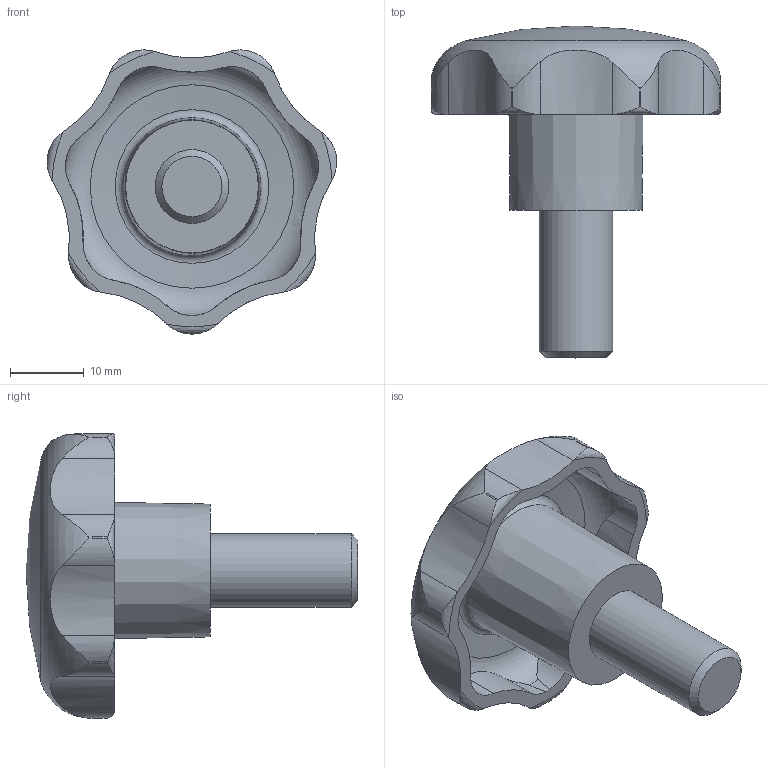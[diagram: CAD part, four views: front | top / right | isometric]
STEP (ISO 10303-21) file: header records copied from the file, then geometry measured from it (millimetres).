
FILE_DESCRIPTION( ( 'STEP AP203' ), '1' );
FILE_NAME( 'C:/Temp/Ganter_Step_05_03_2020/data/2_2/gn_6336_4/gn_6336_4_st/Star knob GN 6336.4-ST-40-M10-20.stp', '2020-03-05T12:07:32', ( 'License CC BY-ND 4.0' ), ( 'CADENAS' ), ' ', 'PARTsolutions', ' ' );
FILE_SCHEMA( ( 'CONFIG_CONTROL_DESIGN' ) );
Length unit declared in the file: millimetre
Products named in the file (1): _Star knob GN 6336.4-ST-40-M10-20
Bounding box: 39.25 x 45 x 38.51 mm (x, y, z)
Volume: 12370.3 mm3; surface area: 5505.8 mm2
Topology: 1 solids, 1 shells, 74 faces, 209 edges, 138 vertices
Faces by surface type: cylinder 43, torus 17, cone 10, plane 3, sphere 1
Full cylindrical faces by diameter (mm): 10 x1
Entity records: 3288 total; most frequent: CARTESIAN_POINT 1437, ORIENTED_EDGE 394, DIRECTION 362, EDGE_CURVE 197, AXIS2_PLACEMENT_3D 160, VERTEX_POINT 135, CIRCLE 85, EDGE_LOOP 83
